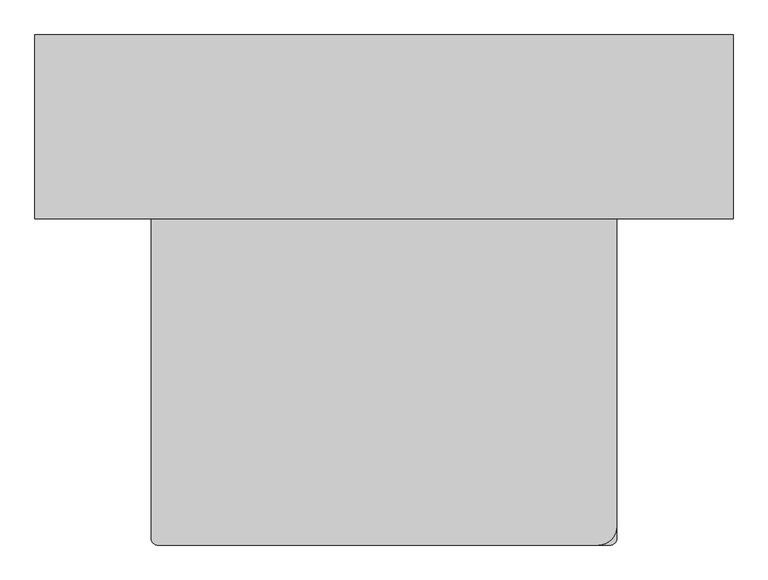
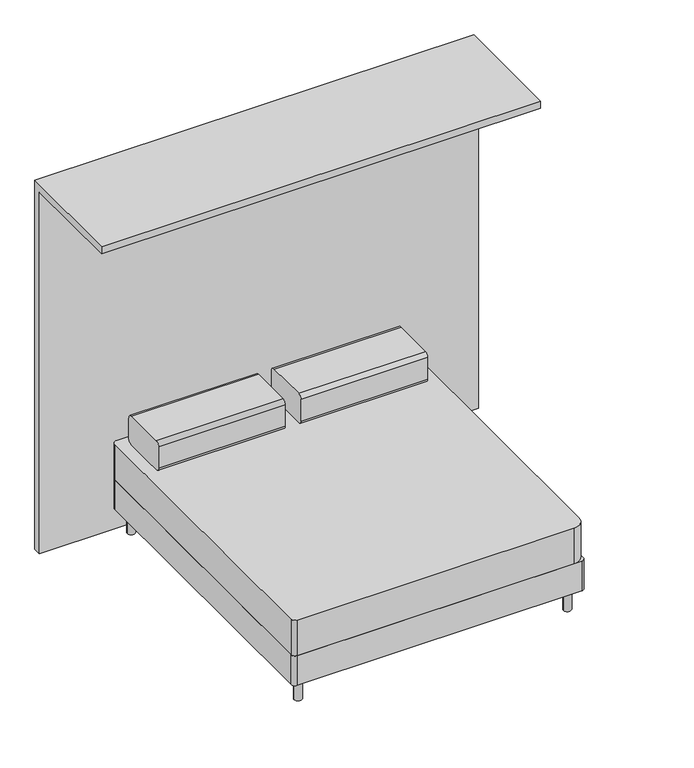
"""IFC4 building model written with IfcOpenShell, lengths in millimetres: furniture geometry, CAMA HABITACIONES : 180cmx200cmx60cm (dos camas) 3."""

from ifc_helpers import new_model, si_unit, point, frame, frame_2d, origin, origin_with_axes, place, context, project, spatial, polyline, circle_curve, trimmed, segment, composite_curve, outline, extrude, source, transform, mapped, element, save


def furniture_a362b857(model_context):
    return source(origin(), model_context, "Body", "SweptSolid", [
        extrude(outline(composite_curve([segment(polyline([(609.2577707, 800.0), (885.4853679, 800.0)]), True, "CONTINUOUS"), segment(trimmed(circle_curve(frame_2d((885.4853679, 767.4275972)), 32.5724028), [point((885.4853679, 800.0))], [point((918.0577707, 767.4275972))], False, "CARTESIAN"), True, "CONTINUOUS"), segment(polyline([(918.0577707, 767.4275972), (918.0577707, 628.7237964)]), True, "CONTINUOUS"), segment(trimmed(circle_curve(frame_2d((889.3339743, 628.7237964)), 28.7237964), [point((918.0577707, 628.7237964))], [point((889.3339743, 600.0))], False, "CARTESIAN"), True, "CONTINUOUS"), segment(polyline([(889.3339743, 600.0), (609.2577707, 600.0)]), True, "CONTINUOUS"), segment(trimmed(circle_curve(frame_2d((609.2577707, 625.4)), 25.4), [point((609.2577707, 600.0))], [point((583.8577707, 625.4))], False, "CARTESIAN"), True, "CONTINUOUS"), segment(polyline([(583.8577707, 625.4), (583.8577707, 774.6)]), True, "CONTINUOUS"), segment(trimmed(circle_curve(frame_2d((609.2577707, 774.6)), 25.4), [point((583.8577707, 774.6))], [point((609.2577707, 800.0))], False, "CARTESIAN"), True, "CONTINUOUS")], self_intersect=False)), frame((323.2558032, 0.0, 0.0), z_axis=(1.0, 0.0, 0.0), x_axis=(0.0, 1.0, 0.0)), (0.0, 0.0, 1.0), 822.0327213),
        extrude(outline(composite_curve([segment(polyline([(-678.5114754, -1036.195082), (-678.5114754, 945.004918)]), True, "CONTINUOUS"), segment(trimmed(circle_curve(frame_2d((-653.1114754, 945.004918)), 25.4), [point((-678.5114754, 945.004918))], [point((-653.1114754, 970.404918))], False, "CARTESIAN"), True, "CONTINUOUS"), segment(polyline([(-653.1114754, 970.404918), (1196.0885246, 970.404918)]), True, "CONTINUOUS"), segment(trimmed(circle_curve(frame_2d((1196.0885246, 945.004918)), 25.4), [point((1196.0885246, 970.404918))], [point((1221.4885246, 945.004918))], False, "CARTESIAN"), True, "CONTINUOUS"), segment(polyline([(1221.4885246, 945.004918), (1221.4885246, -1036.195082)]), True, "CONTINUOUS"), segment(trimmed(circle_curve(frame_2d((1196.0885246, -1036.195082)), 25.4), [point((1221.4885246, -1036.195082))], [point((1196.0885246, -1061.595082))], False, "CARTESIAN"), True, "CONTINUOUS"), segment(polyline([(1196.0885246, -1061.595082), (-653.1114754, -1061.595082)]), True, "CONTINUOUS"), segment(trimmed(circle_curve(frame_2d((-653.1114754, -1036.195082)), 25.4), [point((-653.1114754, -1061.595082))], [point((-678.5114754, -1036.195082))], False, "CARTESIAN"), True, "CONTINUOUS")], self_intersect=False)), frame((0.0, 0.0, 152.4), z_axis=(0.0, 0.0, 1.0), x_axis=(1.0, 0.0, 0.0)), (0.0, 0.0, 1.0), 203.2),
        extrude(outline(composite_curve([segment(trimmed(circle_curve(frame_2d((609.2577707, 774.6)), 25.4), [point((583.8577707, 774.6))], [point((609.2577707, 800.0))], False, "CARTESIAN"), True, "CONTINUOUS"), segment(polyline([(609.2577707, 800.0), (885.4853679, 800.0)]), True, "CONTINUOUS"), segment(trimmed(circle_curve(frame_2d((885.4853679, 767.4275972)), 32.5724028), [point((885.4853679, 800.0))], [point((918.0577707, 767.4275972))], False, "CARTESIAN"), True, "CONTINUOUS"), segment(polyline([(918.0577707, 767.4275972), (918.0577707, 628.7237964)]), True, "CONTINUOUS"), segment(trimmed(circle_curve(frame_2d((889.3339743, 628.7237964)), 28.7237964), [point((918.0577707, 628.7237964))], [point((889.3339743, 600.0))], False, "CARTESIAN"), True, "CONTINUOUS"), segment(polyline([(889.3339743, 600.0), (609.2577707, 600.0)]), True, "CONTINUOUS"), segment(trimmed(circle_curve(frame_2d((609.2577707, 625.4)), 25.4), [point((609.2577707, 600.0))], [point((583.8577707, 625.4))], False, "CARTESIAN"), True, "CONTINUOUS"), segment(polyline([(583.8577707, 625.4), (583.8577707, 774.6)]), True, "CONTINUOUS")], self_intersect=False)), frame((-602.3114754, 0.0, 0.0), z_axis=(1.0, 0.0, 0.0), x_axis=(0.0, 1.0, 0.0)), (0.0, 0.0, 1.0), 822.0327213),
        extrude(outline(composite_curve([segment(trimmed(circle_curve(frame_2d((-602.3114754, 894.204918)), 25.4), [point((-627.7114754, 894.204918))], [point((-576.9114754, 894.204918))], False, "CARTESIAN"), True, "CONTINUOUS"), segment(trimmed(circle_curve(frame_2d((-602.3114754, 894.204918)), 25.4), [point((-576.9114754, 894.204918))], [point((-627.7114754, 894.204918))], False, "CARTESIAN"), True, "CONTINUOUS")], self_intersect=False)), origin_with_axes(), (0.0, 0.0, 1.0), 152.4),
        extrude(outline(composite_curve([segment(trimmed(circle_curve(frame_2d((1145.2885246, 894.204918)), 25.4), [point((1119.8885246, 894.204918))], [point((1170.6885246, 894.204918))], False, "CARTESIAN"), True, "CONTINUOUS"), segment(trimmed(circle_curve(frame_2d((1145.2885246, 894.204918)), 25.4), [point((1170.6885246, 894.204918))], [point((1119.8885246, 894.204918))], False, "CARTESIAN"), True, "CONTINUOUS")], self_intersect=False)), origin_with_axes(), (0.0, 0.0, 1.0), 152.4),
        extrude(outline(composite_curve([segment(trimmed(circle_curve(frame_2d((1145.2885246, -985.395082)), 25.4), [point((1119.8885246, -985.395082))], [point((1170.6885246, -985.395082))], False, "CARTESIAN"), True, "CONTINUOUS"), segment(trimmed(circle_curve(frame_2d((1145.2885246, -985.395082)), 25.4), [point((1170.6885246, -985.395082))], [point((1119.8885246, -985.395082))], False, "CARTESIAN"), True, "CONTINUOUS")], self_intersect=False)), origin_with_axes(), (0.0, 0.0, 1.0), 152.4),
        extrude(outline(composite_curve([segment(trimmed(circle_curve(frame_2d((-602.3114754, -985.395082)), 25.4), [point((-627.7114754, -985.395082))], [point((-576.9114754, -985.395082))], False, "CARTESIAN"), True, "CONTINUOUS"), segment(trimmed(circle_curve(frame_2d((-602.3114754, -985.395082)), 25.4), [point((-576.9114754, -985.395082))], [point((-627.7114754, -985.395082))], False, "CARTESIAN"), True, "CONTINUOUS")], self_intersect=False)), origin_with_axes(), (0.0, 0.0, 1.0), 152.4),
        extrude(outline(composite_curve([segment(polyline([(-653.1114754, 970.404918), (1155.5885246, 970.404918)]), True, "CONTINUOUS"), segment(trimmed(circle_curve(frame_2d((1155.5885246, 904.504918)), 65.9), [point((1155.5885246, 970.404918))], [point((1221.4885246, 904.504918))], False, "CARTESIAN"), True, "CONTINUOUS"), segment(polyline([(1221.4885246, 904.504918), (1221.4885246, -986.195082)]), True, "CONTINUOUS"), segment(trimmed(circle_curve(frame_2d((1146.0885246, -986.195082)), 75.4), [point((1221.4885246, -986.195082))], [point((1146.0885246, -1061.595082))], False, "CARTESIAN"), True, "CONTINUOUS"), segment(polyline([(1146.0885246, -1061.595082), (-653.1114754, -1061.595082)]), True, "CONTINUOUS"), segment(trimmed(circle_curve(frame_2d((-653.1114754, -1036.195082)), 25.4), [point((-653.1114754, -1061.595082))], [point((-678.5114754, -1036.195082))], False, "CARTESIAN"), True, "CONTINUOUS"), segment(polyline([(-678.5114754, -1036.195082), (-678.5114754, 945.004918)]), True, "CONTINUOUS"), segment(trimmed(circle_curve(frame_2d((-653.1114754, 945.004918)), 25.4), [point((-678.5114754, 945.004918))], [point((-653.1114754, 970.404918))], False, "CARTESIAN"), True, "CONTINUOUS")], self_intersect=False)), frame((0.0, 0.0, 355.6), z_axis=(0.0, 0.0, 1.0), x_axis=(1.0, 0.0, 0.0)), (0.0, 0.0, 1.0), 244.4),
        extrude(outline(polyline([(1020.404918, 0.0), (970.404918, 0.0), (970.404918, 2480.0799139), (270.404918, 2480.0799139), (270.404918, 2530.0799139), (1020.404918, 2530.0799139), (1020.404918, 0.0)])), frame((-1153.5114754, 0.0, 0.0), z_axis=(1.0, 0.0, 0.0), x_axis=(0.0, 1.0, 0.0)), (0.0, 0.0, 1.0), 2850.0),
    ])


if __name__ == "__main__":
    model = new_model("IFC4")
    model_context = context("Model", 3, world=origin())
    ifc_project = project(units=[si_unit("LENGTHUNIT", "METRE", prefix="MILLI")], contexts=[model_context])
    site = spatial("IfcSite", under=ifc_project)
    building = spatial("IfcBuilding", under=site)
    placement = place(None, origin())
    furniture_shape = furniture_a362b857(model_context)
    element("IfcFurniture", 1, ObjectType="CAMA HABITACIONES : 180cmx200cmx60cm (dos camas) 3", at=placement, inside=building, context=model_context, shape_type="MappedRepresentation", body=[
        mapped(furniture_shape, transform((0.0, 0.0, 0.0), x_axis=(1.0, 0.0, 0.0), y_axis=(0.0, 1.0, 0.0), z_axis=(0.0, 0.0, 1.0))),
    ])
    save(model, "model.ifc")
